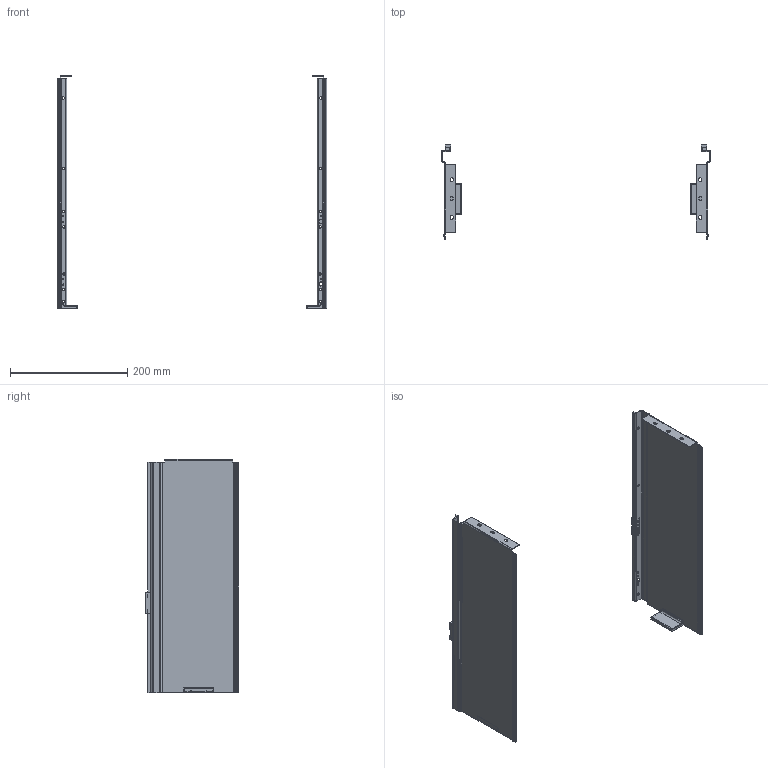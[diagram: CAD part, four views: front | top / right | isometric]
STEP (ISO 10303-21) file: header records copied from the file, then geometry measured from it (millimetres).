
FILE_DESCRIPTION(/* description */ (''),/* implementation_level */ '2;1');
FILE_NAME(/* name */ 'C:\Users\dmitruk\Documents\WORK\\X2\041D0410041F042004100412041B042F042E042904180415\X0\\ULTRA SLIM\\X2\0411043E043A043E04320438043D043A0438\X0\ Q-Type\Боковинки Q-Type-400 высокий.stp',/* time_stamp */ '2022-07-28T10:09:01+03:00',/* author */ ('dmitruk'),/* organization */ (''),/* preprocessor_version */ 'ST-DEVELOPER v16.5',/* originating_system */ 'Autodesk Inventor 2017',/* authorisation */ '');
FILE_SCHEMA (('AUTOMOTIVE_DESIGN { 1 0 10303 214 3 1 1 }'));
Length unit declared in the file: millimetre
Products named in the file (3): Боковинки Q-Type; Боковина USLIM; Боковина USLIM L
Assembly tree (2 placements, depth 2):
  Боковинки Q-Type
    Боковина USLIM
    Боковина USLIM L
Bounding box: 459.6 x 160.4 x 398 mm (x, y, z)
Volume: 213559.9 mm3; surface area: 305072.6 mm2
Topology: 8 solids, 8 shells, 480 faces, 1328 edges, 868 vertices
Faces by surface type: plane 210, cylinder 198, torus 36, bspline 28, sphere 8
Full cylindrical faces by diameter (mm): 2 x6, 4.2 x18, 6 x2, 7 x2, 8 x4
Entity records: 16210 total; most frequent: CARTESIAN_POINT 3164, DIRECTION 2702, ORIENTED_EDGE 2548, EDGE_CURVE 1274, AXIS2_PLACEMENT_3D 979, VERTEX_POINT 846, LINE 744, VECTOR 744
